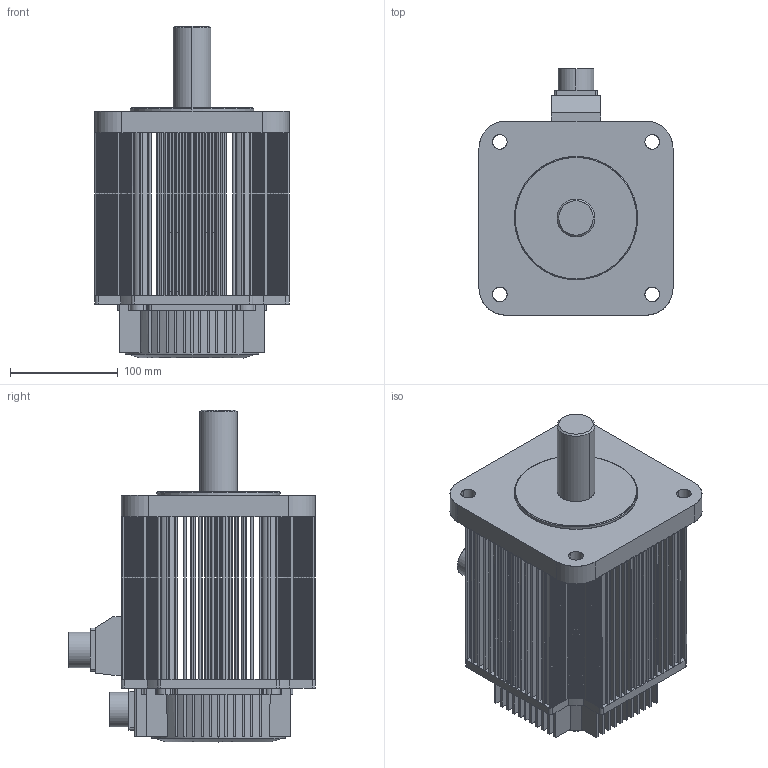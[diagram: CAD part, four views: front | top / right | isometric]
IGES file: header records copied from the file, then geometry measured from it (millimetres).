
Start section: SolidWorks IGES file using analytic representation for surfaces
Global section: file name: H:\estun\zhangjian\电机外观文件（solidworks2009 零件 文件）\IGS\EMG-30A.IGS; native system: SolidWorks 2009; preprocessor: SolidWorks 2009; author: Administrator; date: 100804.094806; units: millimetre
Bounding box: 180 x 229 x 308 mm (x, y, z)
Surface area: 361412.3 mm2 (no closed solid volume)
Topology: 0 solids, 0 shells, 1196 faces, 12001 edges, 12001 vertices
Faces by surface type: bspline 716, revolution 480
